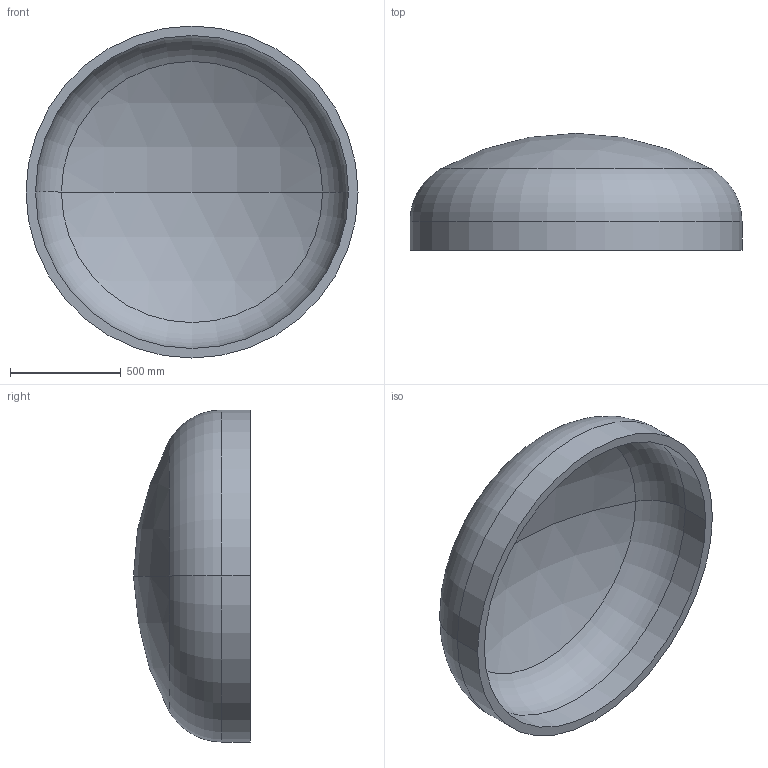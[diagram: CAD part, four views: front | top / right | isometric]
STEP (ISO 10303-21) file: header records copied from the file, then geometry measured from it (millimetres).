
FILE_DESCRIPTION (( 'STEP AP203' ), '1' );
FILE_NAME ('DIN 28013 Korbbogenform_-_Boden DIN 28013 - 1500 x 130 - I - s=43.step', '2016-07-01T10:46:40', ( '' ), ( '' ), 'SwSTEP 2.0', 'SolidWorks 2013', '' );
FILE_SCHEMA (( 'CONFIG_CONTROL_DESIGN' ));
Length unit declared in the file: millimetre
Products named in the file (1): DIN 28013 Korbbogenform_-_Boden DIN 28013 - 1500 x 130 - I - s=43
Bounding box: 1500 x 528.39 x 1500 mm (x, y, z)
Volume: 126867878.9 mm3; surface area: 6101526.4 mm2
Topology: 1 solids, 1 shells, 13 faces, 24 edges, 14 vertices
Faces by surface type: torus 4, cylinder 4, sphere 4, plane 1
Entity records: 407 total; most frequent: DIRECTION 72, CARTESIAN_POINT 52, ORIENTED_EDGE 48, AXIS2_PLACEMENT_3D 34, EDGE_CURVE 24, CIRCLE 20, EDGE_LOOP 14, VERTEX_POINT 14
